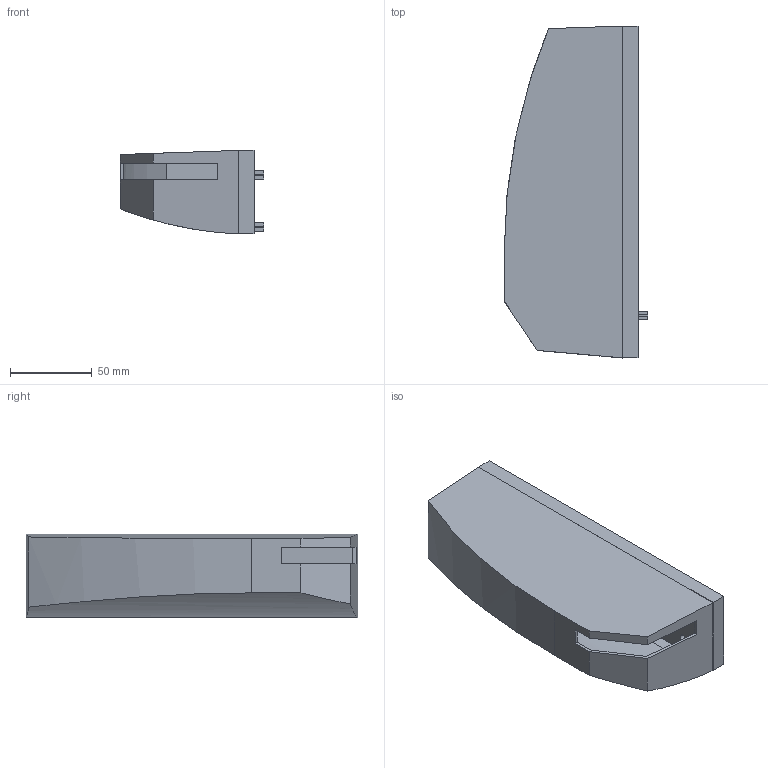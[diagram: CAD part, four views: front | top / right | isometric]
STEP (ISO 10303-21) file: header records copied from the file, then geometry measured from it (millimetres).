
FILE_DESCRIPTION( ( 'STEP AP214' ), '1' );
FILE_NAME( 'C:/Users/KOSH/Desktop/Export/Wingline L/9277933.stp', '2020-02-17T09:59:05', ( '' ), ( '' ), ' ', 'PARTsolutions', ' ' );
FILE_SCHEMA( ( 'AUTOMOTIVE_DESIGN { 1 0 10303 214 1 1 1 1 }' ) );
Length unit declared in the file: millimetre
Products named in the file (3): 9277933; _9238113_34; _adapter_3
Assembly tree (2 placements, depth 2):
  9277933
    _9238113_34
    _adapter_3
Bounding box: 88 x 203.39 x 51 mm (x, y, z)
Volume: 170501.1 mm3; surface area: 100524 mm2
Topology: 2 solids, 2 shells, 96 faces, 267 edges, 178 vertices
Faces by surface type: plane 87, cylinder 9
Full cylindrical faces by diameter (mm): 4.8 x3
Entity records: 3880 total; most frequent: CARTESIAN_POINT 569, ORIENTED_EDGE 528, DIRECTION 478, EDGE_CURVE 264, LINE 244, VECTOR 244, VERTEX_POINT 178, AXIS2_PLACEMENT_3D 117
